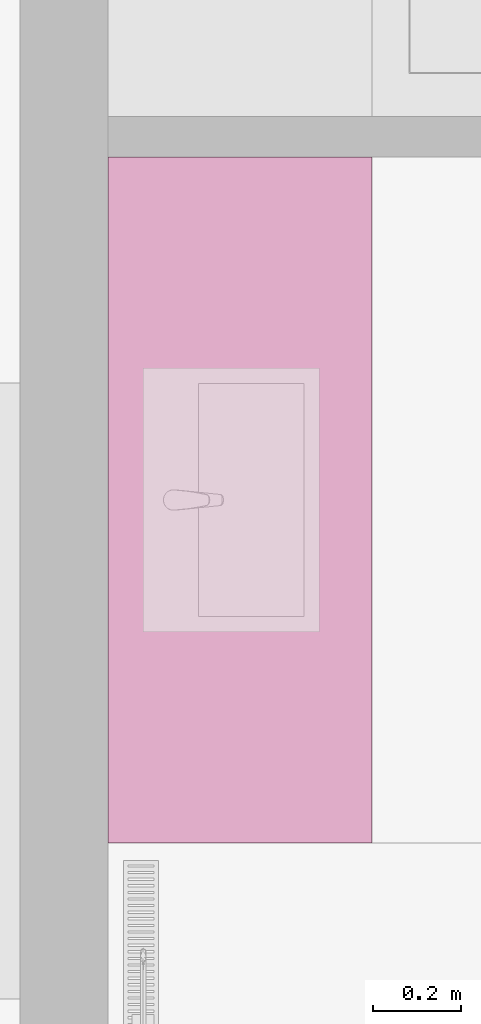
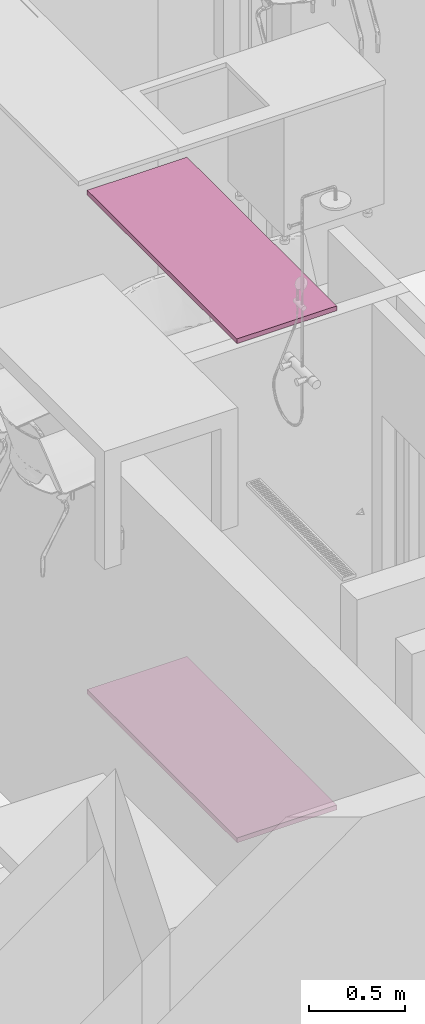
# One storey, part 80 of 125: 2 furnishings.
"""IFC2X3 building model written with IfcOpenShell, lengths in millimetres."""

from ifc_helpers import new_model, entity, si_unit, converted_unit, direction, frame, frame_2d, origin, place, context, subcontext, project, spatial, rectangle, extrude, source, transform, mapped, material, type_object, type_shapes, element, save


model = new_model("IFC2X3")

# Units and contexts
model_context = context("Model", 3, precision=0.01, world=origin(), true_north=direction((6.123233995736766e-17, 1.0)))
plan_context = context("Plan", 3, precision=0.01, world=origin(), true_north=direction((6.123233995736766e-17, 1.0)))
body_context = subcontext(model_context, "Body", "Model", "MODEL_VIEW")
ifc_project = project(units=[si_unit("LENGTHUNIT", "METRE", prefix="MILLI"), converted_unit("PLANEANGLEUNIT", "DEGREE", entity("IfcPlaneAngleMeasure", 0.017453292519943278), si_unit("PLANEANGLEUNIT", "RADIAN"), dimensions=[0, 0, 0, 0, 0, 0, 0]), si_unit("AREAUNIT", "SQUARE_METRE")], contexts=[model_context, plan_context])

# Site, building, storey, space
site_placement = place(None, origin())
site = spatial("IfcSite", under=ifc_project, at=site_placement, Name="Default", CompositionType="ELEMENT")
building_placement = place(site_placement, origin())
building = spatial("IfcBuilding", under=site, at=building_placement, CompositionType="ELEMENT")
storey_placement = place(building_placement, frame((0.0, 0.0, 3125.0)))
storey = spatial("IfcBuildingStorey", under=building, at=storey_placement, Name="2K", CompositionType="ELEMENT", Elevation=3125.0)
space_placement = place(storey_placement, origin())
space = spatial("IfcSpace", under=storey, at=space_placement, Name="2-3.4", CompositionType="ELEMENT", InteriorOrExteriorSpace="INTERNAL")

# Furnishings
ifc_material = material(Name="<Unnamed>")
furniture_type_1 = type_object("IfcFurnitureType", Name="HR_Casework_Work-surface_Generic_Rectangular_v1:Default", AssemblyPlace="NOTDEFINED", material=ifc_material)
shared_shape_1 = source(origin(), body_context, "Body", "SweptSolid", [
    extrude(rectangle(XDim=1557.9999999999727, YDim=600.0, at=frame_2d((1.1368683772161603e-12, 0.0), x_axis=(1.0, 0.0))), frame((10450.0, 11069.0, 870.0), z_axis=(0.0, 0.0, 1.0), x_axis=(0.0, 1.0, 0.0)), (0.0, 0.0, 1.0), 29.999999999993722),
])
type_shapes(furniture_type_1, [shared_shape_1])
furnishing_1_placement = place(space_placement, origin())
element("IfcFurnishingElement", 1, at=furnishing_1_placement, inside=space, type_object=furniture_type_1, material=ifc_material, Name="HR_Casework_Work-surface_Generic_Rectangular_v1:Default", ObjectType="HR_Casework_Work-surface_Generic_Rectangular_v1:Default", context=body_context, shape_type="MappedRepresentation", body=[
    mapped(shared_shape_1, transform((0.0, 0.0, 0.0), scale=1.0)),
])
furniture_type_2 = type_object("IfcFurnitureType", Name="HR_Casework_Work-surface_Generic_Rectangular_v1:Default", AssemblyPlace="NOTDEFINED", material=ifc_material)
shared_shape_2 = source(origin(), body_context, "Body", "SweptSolid", [
    extrude(rectangle(XDim=1557.9999999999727, YDim=600.0, at=frame_2d((1.1368683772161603e-12, 0.0), x_axis=(1.0, 0.0))), frame((10450.0, 11069.0, 870.0), z_axis=(0.0, 0.0, 1.0), x_axis=(0.0, 1.0, 0.0)), (0.0, 0.0, 1.0), 29.999999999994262),
])
type_shapes(furniture_type_2, [shared_shape_2])
furnishing_2_placement = place(space_placement, frame((0.0, 0.0, 3170.0)))
element("IfcFurnishingElement", 2, at=furnishing_2_placement, inside=space, type_object=furniture_type_2, material=ifc_material, Name="HR_Casework_Work-surface_Generic_Rectangular_v1:Default", ObjectType="HR_Casework_Work-surface_Generic_Rectangular_v1:Default", context=body_context, shape_type="MappedRepresentation", body=[
    mapped(shared_shape_2, transform((0.0, 0.0, 0.0), scale=1.0)),
])

save(model, "model.ifc")
